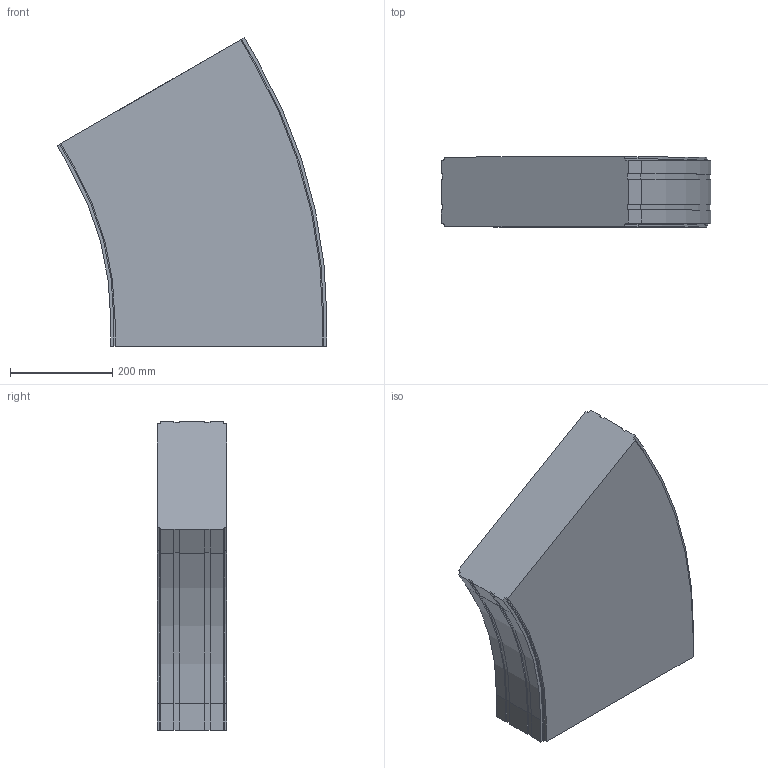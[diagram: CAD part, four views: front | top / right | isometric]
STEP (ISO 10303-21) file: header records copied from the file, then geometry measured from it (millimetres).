
FILE_DESCRIPTION (( 'STEP AP214' ), '1' );
FILE_NAME ('FS-MTC2-150-INOX horizontaalbocht.420 30°.STEP', '2017-02-08T12:40:32', ( '' ), ( '' ), 'SwSTEP 2.0', 'SolidWorks 2016', '' );
FILE_SCHEMA (( 'AUTOMOTIVE_DESIGN' ));
Length unit declared in the file: millimetre
Products named in the file (1): FS-MTC2-150-INOX horizontaalbocht.420 30°
Bounding box: 528.09 x 136.5 x 603.72 mm (x, y, z)
Volume: 30086215 mm3; surface area: 711557.6 mm2
Topology: 1 solids, 1 shells, 74 faces, 216 edges, 144 vertices
Faces by surface type: plane 56, cylinder 18
Entity records: 2470 total; most frequent: CARTESIAN_POINT 435, ORIENTED_EDGE 432, DIRECTION 402, EDGE_CURVE 216, LINE 180, VECTOR 180, VERTEX_POINT 144, AXIS2_PLACEMENT_3D 111
